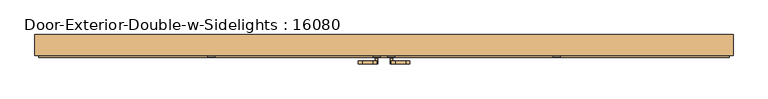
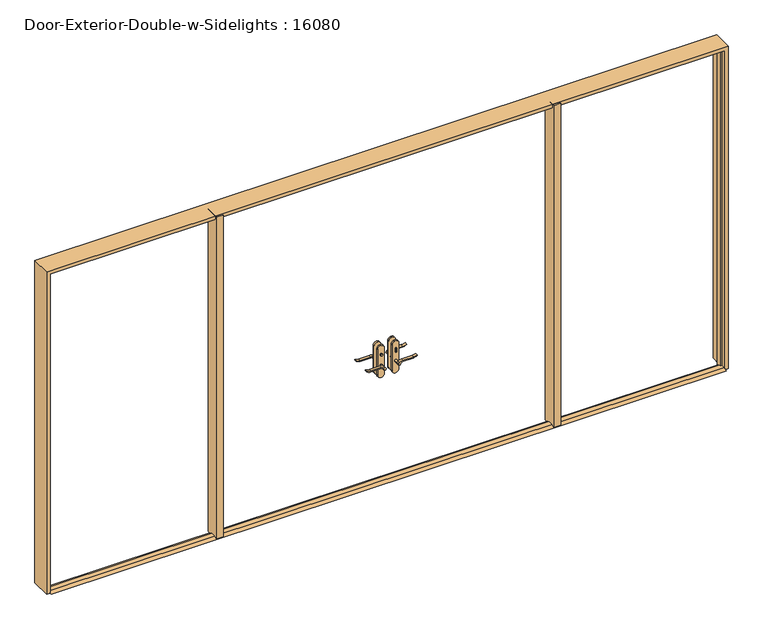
"""IFC4 building model written with IfcOpenShell, lengths in millimetres: door geometry, Door-Exterior-Double-w-Sidelights : 16080."""

from ifc_helpers import new_model, si_unit, point, frame, frame_2d, origin, origin_with_axes, place, context, project, spatial, polyline, circle_curve, trimmed, segment, composite_curve, outline, extrude, faceted_brep, source, transform, mapped, element, save


def door_exterior_double_w_sidelights_16080_06d0ee3c(model_context):
    return source(origin(), model_context, "Body", "SolidModel", [
        extrude(outline(polyline([(-19.05, 12.7), (6.35, 0.0), (-79.375, 0.0), (-53.975, 12.7), (-19.05, 12.7)])), frame((-2438.4, 0.0, 0.0), z_axis=(1.0, 0.0, 0.0), x_axis=(0.0, 1.0, 0.0)), (0.0, 0.0, 1.0), 4876.8),
        extrude(outline(polyline([(-47.4019111, -8.575), (-47.4019111, -18.575), (-57.4019111, -18.575), (-57.4019111, -8.575), (-47.4019111, -8.575)])), frame((0.0, 0.0, 981.9), z_axis=(0.0, 0.0, 1.0), x_axis=(1.0, 0.0, 0.0)), (0.0, 0.0, 1.0), 30.0),
        extrude(outline(composite_curve([segment(trimmed(circle_curve(frame_2d((996.9, -52.4019111)), 8.0), [point((996.9, -60.4019111))], [point((996.9, -44.4019111))], False, "CARTESIAN"), True, "CONTINUOUS"), segment(trimmed(circle_curve(frame_2d((996.9, -52.4019111)), 8.0), [point((996.9, -44.4019111))], [point((996.9, -60.4019111))], False, "CARTESIAN"), True, "CONTINUOUS")], self_intersect=False)), frame((0.0, -83.5, 0.0), z_axis=(0.0, 1.0, 0.0), x_axis=(0.0, 0.0, 1.0)), (0.0, 0.0, 1.0), 10.0),
        extrude(outline(composite_curve([segment(trimmed(circle_curve(frame_2d((897.1555521, -76.0694241)), 37.2832219), [point((919.0523287, -45.8937749))], [point((934.4, -77.7693445))], False, "CARTESIAN"), True, "CONTINUOUS"), segment(polyline([(934.4, -77.7693445), (934.4, -154.045502)]), True, "CONTINUOUS"), segment(trimmed(circle_curve(frame_2d((1017.6850638, -153.9791202)), 83.2850902), [point((934.4, -154.045502))], [point((939.4, -182.4019111))], True, "CARTESIAN"), True, "CONTINUOUS"), segment(polyline([(939.4, -182.4019111), (936.6135558, -182.4019111)]), True, "CONTINUOUS"), segment(trimmed(circle_curve(frame_2d((986.6709207, -150.4622499)), 59.3791355), [point((936.6135558, -182.4019111))], [point((927.4, -154.045502))], False, "CARTESIAN"), True, "CONTINUOUS"), segment(polyline([(927.4, -154.045502), (927.4, -77.7881013)]), True, "CONTINUOUS"), segment(trimmed(circle_curve(frame_2d((909.2738613, -77.7881013)), 18.1261387), [point((927.4, -77.7881013))], [point((914.4, -60.4019111))], True, "CARTESIAN"), True, "CONTINUOUS"), segment(trimmed(circle_curve(frame_2d((914.4, -52.4019111)), 8.0), [point((914.4, -60.4019111))], [point((919.0523287, -45.8937749))], False, "CARTESIAN"), True, "CONTINUOUS")], self_intersect=False)), frame((0.0, 11.425, 0.0), z_axis=(0.0, 1.0, 0.0), x_axis=(0.0, 0.0, 1.0)), (0.0, 0.0, 1.0), 20.0),
        extrude(outline(composite_curve([segment(trimmed(circle_curve(frame_2d((914.4, -52.4019111)), 8.0), [point((914.3999903, -60.4019111))], [point((919.0523287, -45.8937749))], False, "CARTESIAN"), True, "CONTINUOUS"), segment(trimmed(circle_curve(frame_2d((897.1555521, -76.0694241)), 37.2832219), [point((919.0523287, -45.8937749))], [point((934.4, -77.7693445))], False, "CARTESIAN"), True, "CONTINUOUS"), segment(polyline([(934.4, -77.7693445), (934.4, -154.045502)]), True, "CONTINUOUS"), segment(trimmed(circle_curve(frame_2d((1017.6850638, -153.9791202)), 83.2850902), [point((934.4, -154.045502))], [point((939.4, -182.4019111))], True, "CARTESIAN"), True, "CONTINUOUS"), segment(polyline([(939.4, -182.4019111), (936.6135558, -182.4019111)]), True, "CONTINUOUS"), segment(trimmed(circle_curve(frame_2d((986.6709207, -150.4622499)), 59.3791355), [point((936.6135558, -182.4019111))], [point((927.4, -154.045502))], False, "CARTESIAN"), True, "CONTINUOUS"), segment(polyline([(927.4, -154.045502), (927.4, -77.788099)]), True, "CONTINUOUS"), segment(trimmed(circle_curve(frame_2d((909.2738682, -77.788099)), 18.1261318), [point((927.4, -77.788099))], [point((914.3999903, -60.4019111))], True, "CARTESIAN"), True, "CONTINUOUS")], self_intersect=False)), frame((0.0, -123.5, 0.0), z_axis=(0.0, 1.0, 0.0), x_axis=(0.0, 0.0, 1.0)), (0.0, 0.0, 1.0), 20.0),
        extrude(outline(composite_curve([segment(trimmed(circle_curve(frame_2d((914.4, -52.4019111)), 8.0), [point((914.4, -60.4019111))], [point((914.4, -44.4019111))], False, "CARTESIAN"), True, "CONTINUOUS"), segment(trimmed(circle_curve(frame_2d((914.4, -52.4019111)), 8.0), [point((914.4, -44.4019111))], [point((914.4, -60.4019111))], False, "CARTESIAN"), True, "CONTINUOUS")], self_intersect=False)), frame((0.0, -18.575, 0.0), z_axis=(0.0, 1.0, 0.0), x_axis=(0.0, 0.0, 1.0)), (0.0, 0.0, 1.0), 30.0),
        extrude(outline(composite_curve([segment(trimmed(circle_curve(frame_2d((914.4, -52.4019111)), 8.0), [point((914.4, -60.4019111))], [point((914.4, -44.4019111))], False, "CARTESIAN"), True, "CONTINUOUS"), segment(trimmed(circle_curve(frame_2d((914.4, -52.4019111)), 8.0), [point((914.4, -44.4019111))], [point((914.4, -60.4019111))], False, "CARTESIAN"), True, "CONTINUOUS")], self_intersect=False)), frame((0.0, -103.5, 0.0), z_axis=(0.0, 1.0, 0.0), x_axis=(0.0, 0.0, 1.0)), (0.0, 0.0, 1.0), 30.0),
        extrude(outline(composite_curve([segment(polyline([(844.4, -27.4019111), (1039.4, -27.4019111)]), True, "CONTINUOUS"), segment(trimmed(circle_curve(frame_2d((1039.4, -52.4019111)), 25.0), [point((1039.4, -27.4019111))], [point((1039.4, -77.4019111))], False, "CARTESIAN"), True, "CONTINUOUS"), segment(polyline([(1039.4, -77.4019111), (844.4, -77.4019111)]), True, "CONTINUOUS"), segment(trimmed(circle_curve(frame_2d((844.4, -52.4019111)), 25.0), [point((844.4, -77.4019111))], [point((844.4, -27.4019111))], False, "CARTESIAN"), True, "CONTINUOUS")], self_intersect=False)), frame((0.0, -28.575, 0.0), z_axis=(0.0, 1.0, 0.0), x_axis=(0.0, 0.0, 1.0)), (0.0, 0.0, 1.0), 10.0),
        extrude(outline(composite_curve([segment(polyline([(844.4, -27.4019111), (1039.4, -27.4019111)]), True, "CONTINUOUS"), segment(trimmed(circle_curve(frame_2d((1039.4, -52.4019111)), 25.0), [point((1039.4, -27.4019111))], [point((1039.4, -77.4019111))], False, "CARTESIAN"), True, "CONTINUOUS"), segment(polyline([(1039.4, -77.4019111), (844.4, -77.4019111)]), True, "CONTINUOUS"), segment(trimmed(circle_curve(frame_2d((844.4, -52.4019111)), 25.0), [point((844.4, -77.4019111))], [point((844.4, -27.4019111))], False, "CARTESIAN"), True, "CONTINUOUS")], self_intersect=False)), frame((0.0, -73.5, 0.0), z_axis=(0.0, 1.0, 0.0), x_axis=(0.0, 0.0, 1.0)), (0.0, 0.0, 1.0), 10.0),
        extrude(outline(polyline([(47.3875, -83.5), (47.3875, -73.5), (57.3875, -73.5), (57.3875, -83.5), (47.3875, -83.5)])), frame((0.0, 0.0, 981.9), z_axis=(0.0, 0.0, 1.0), x_axis=(1.0, 0.0, 0.0)), (0.0, 0.0, 1.0), 30.0),
        extrude(outline(composite_curve([segment(trimmed(circle_curve(frame_2d((996.9, 52.3875)), 8.0), [point((996.9, 60.3875))], [point((996.9, 44.3875))], False, "CARTESIAN"), True, "CONTINUOUS"), segment(trimmed(circle_curve(frame_2d((996.9, 52.3875)), 8.0), [point((996.9, 44.3875))], [point((996.9, 60.3875))], False, "CARTESIAN"), True, "CONTINUOUS")], self_intersect=False)), frame((0.0, -18.575, 0.0), z_axis=(0.0, 1.0, 0.0), x_axis=(0.0, 0.0, 1.0)), (0.0, 0.0, 1.0), 10.0),
        extrude(outline(composite_curve([segment(trimmed(circle_curve(frame_2d((914.4, 52.3875)), 8.0), [point((919.0523287, 45.8793637))], [point((914.4, 60.3875))], False, "CARTESIAN"), True, "CONTINUOUS"), segment(trimmed(circle_curve(frame_2d((909.2738613, 77.7736901)), 18.1261387), [point((914.4, 60.3875))], [point((927.4, 77.7736901))], True, "CARTESIAN"), True, "CONTINUOUS"), segment(polyline([(927.4, 77.7736901), (927.4, 154.0310909)]), True, "CONTINUOUS"), segment(trimmed(circle_curve(frame_2d((986.6709207, 150.4478388)), 59.3791355), [point((927.4, 154.0310909))], [point((936.6135558, 182.3875))], False, "CARTESIAN"), True, "CONTINUOUS"), segment(polyline([(936.6135558, 182.3875), (939.4, 182.3875)]), True, "CONTINUOUS"), segment(trimmed(circle_curve(frame_2d((1017.6850638, 153.9647091)), 83.2850902), [point((939.4, 182.3875))], [point((934.4, 154.0310909))], True, "CARTESIAN"), True, "CONTINUOUS"), segment(polyline([(934.4, 154.0310909), (934.4, 77.7549333)]), True, "CONTINUOUS"), segment(trimmed(circle_curve(frame_2d((897.1555521, 76.0550129)), 37.2832219), [point((934.4, 77.7549333))], [point((919.0523287, 45.8793637))], False, "CARTESIAN"), True, "CONTINUOUS")], self_intersect=False)), frame((0.0, -123.5, 0.0), z_axis=(0.0, 1.0, 0.0), x_axis=(0.0, 0.0, 1.0)), (0.0, 0.0, 1.0), 20.0),
        extrude(outline(composite_curve([segment(trimmed(circle_curve(frame_2d((909.2738682, 77.7736878)), 18.1261318), [point((914.3999903, 60.3875))], [point((927.4, 77.7736878))], True, "CARTESIAN"), True, "CONTINUOUS"), segment(polyline([(927.4, 77.7736878), (927.4, 154.0310909)]), True, "CONTINUOUS"), segment(trimmed(circle_curve(frame_2d((986.6709207, 150.4478388)), 59.3791355), [point((927.4, 154.0310909))], [point((936.6135558, 182.3875))], False, "CARTESIAN"), True, "CONTINUOUS"), segment(polyline([(936.6135558, 182.3875), (939.4, 182.3875)]), True, "CONTINUOUS"), segment(trimmed(circle_curve(frame_2d((1017.6850638, 153.9647091)), 83.2850902), [point((939.4, 182.3875))], [point((934.4, 154.0310909))], True, "CARTESIAN"), True, "CONTINUOUS"), segment(polyline([(934.4, 154.0310909), (934.4, 77.7549333)]), True, "CONTINUOUS"), segment(trimmed(circle_curve(frame_2d((897.1555521, 76.0550129)), 37.2832219), [point((934.4, 77.7549333))], [point((919.0523287, 45.8793637))], False, "CARTESIAN"), True, "CONTINUOUS"), segment(trimmed(circle_curve(frame_2d((914.4, 52.3875)), 8.0), [point((919.0523287, 45.8793637))], [point((914.3999903, 60.3875))], False, "CARTESIAN"), True, "CONTINUOUS")], self_intersect=False)), frame((0.0, 11.425, 0.0), z_axis=(0.0, 1.0, 0.0), x_axis=(0.0, 0.0, 1.0)), (0.0, 0.0, 1.0), 20.0),
        extrude(outline(composite_curve([segment(trimmed(circle_curve(frame_2d((914.4, 52.3875)), 8.0), [point((914.4, 60.3875))], [point((914.4, 44.3875))], False, "CARTESIAN"), True, "CONTINUOUS"), segment(trimmed(circle_curve(frame_2d((914.4, 52.3875)), 8.0), [point((914.4, 44.3875))], [point((914.4, 60.3875))], False, "CARTESIAN"), True, "CONTINUOUS")], self_intersect=False)), frame((0.0, -103.5, 0.0), z_axis=(0.0, 1.0, 0.0), x_axis=(0.0, 0.0, 1.0)), (0.0, 0.0, 1.0), 30.0),
        extrude(outline(composite_curve([segment(trimmed(circle_curve(frame_2d((914.4, 52.3875)), 8.0), [point((914.4, 60.3875))], [point((914.4, 44.3875))], False, "CARTESIAN"), True, "CONTINUOUS"), segment(trimmed(circle_curve(frame_2d((914.4, 52.3875)), 8.0), [point((914.4, 44.3875))], [point((914.4, 60.3875))], False, "CARTESIAN"), True, "CONTINUOUS")], self_intersect=False)), frame((0.0, -18.575, 0.0), z_axis=(0.0, 1.0, 0.0), x_axis=(0.0, 0.0, 1.0)), (0.0, 0.0, 1.0), 30.0),
        extrude(outline(composite_curve([segment(trimmed(circle_curve(frame_2d((844.4, 52.3875)), 25.0), [point((844.4, 27.3875))], [point((844.4, 77.3875))], False, "CARTESIAN"), True, "CONTINUOUS"), segment(polyline([(844.4, 77.3875), (1039.4, 77.3875)]), True, "CONTINUOUS"), segment(trimmed(circle_curve(frame_2d((1039.4, 52.3875)), 25.0), [point((1039.4, 77.3875))], [point((1039.4, 27.3875))], False, "CARTESIAN"), True, "CONTINUOUS"), segment(polyline([(1039.4, 27.3875), (844.4, 27.3875)]), True, "CONTINUOUS")], self_intersect=False)), frame((0.0, -73.5, 0.0), z_axis=(0.0, 1.0, 0.0), x_axis=(0.0, 0.0, 1.0)), (0.0, 0.0, 1.0), 10.0),
        extrude(outline(composite_curve([segment(trimmed(circle_curve(frame_2d((844.4, 52.3875)), 25.0), [point((844.4, 27.3875))], [point((844.4, 77.3875))], False, "CARTESIAN"), True, "CONTINUOUS"), segment(polyline([(844.4, 77.3875), (1039.4, 77.3875)]), True, "CONTINUOUS"), segment(trimmed(circle_curve(frame_2d((1039.4, 52.3875)), 25.0), [point((1039.4, 77.3875))], [point((1039.4, 27.3875))], False, "CARTESIAN"), True, "CONTINUOUS"), segment(polyline([(1039.4, 27.3875), (844.4, 27.3875)]), True, "CONTINUOUS")], self_intersect=False)), frame((0.0, -28.575, 0.0), z_axis=(0.0, 1.0, 0.0), x_axis=(0.0, 0.0, 1.0)), (0.0, 0.0, 1.0), 10.0),
        faceted_brep([(2463.8, -63.5, 0.0), (2438.4, -63.5, 0.0), (2438.4, -28.575, 0.0), (2425.7, -28.575, 0.0), (2425.7, 6.35, 0.0), (2438.4, 6.35, 0.0), (2438.4, 82.55, 0.0), (2463.8, 82.55, 0.0), (2463.8, 82.55, 2463.8), (2463.8, -63.5, 2463.8), (2438.4, 82.55, 2438.4), (-2438.4, 82.55, 2438.4), (-2438.4, 82.55, 0.0), (-2463.8, 82.55, 0.0), (-2463.8, 82.55, 2463.8), (2438.4, 6.35, 2438.4), (2425.7, 6.35, 2425.7), (-2425.7, 6.35, 2425.7), (-2425.7, 6.35, 0.0), (-2438.4, 6.35, 0.0), (-2438.4, 6.35, 2438.4), (2425.7, -28.575, 2425.7), (2438.4, -28.575, 2438.4), (-2438.4, -28.575, 2438.4), (-2438.4, -28.575, 0.0), (-2425.7, -28.575, 0.0), (-2425.7, -28.575, 2425.7), (2438.4, -63.5, 2438.4), (-2463.8, -63.5, 2463.8), (-2463.8, -63.5, 0.0), (-2438.4, -63.5, 0.0), (-2438.4, -63.5, 2438.4)], [[[0, 1, 2, 3, 4, 5, 6, 7]], [[7, 8, 9, 0]], [[6, 10, 11, 12, 13, 14, 8, 7]], [[5, 15, 10, 6]], [[4, 16, 17, 18, 19, 20, 15, 5]], [[3, 21, 16, 4]], [[2, 22, 23, 24, 25, 26, 21, 3]], [[1, 27, 22, 2]], [[0, 9, 28, 29, 30, 31, 27, 1]], [[8, 14, 28, 9]], [[15, 20, 11, 10]], [[21, 26, 17, 16]], [[27, 31, 23, 22]], [[29, 13, 12, 19, 18, 25, 24, 30]], [[14, 13, 29, 28]], [[20, 19, 12, 11]], [[26, 25, 18, 17]], [[31, 30, 24, 23]]]),
        extrude(outline(polyline([(-1193.8, 25.4), (-1193.8, -76.2), (-1244.6, -76.2), (-1244.6, 25.4), (-1193.8, 25.4)])), origin_with_axes(), (0.0, 0.0, 1.0), 2463.8),
        extrude(outline(polyline([(1244.6, 25.4), (1244.6, -76.2), (1193.8, -76.2), (1193.8, 25.4), (1244.6, 25.4)])), origin_with_axes(), (0.0, 0.0, 1.0), 2463.8),
    ])


if __name__ == "__main__":
    model = new_model("IFC4")
    model_context = context("Model", 3, world=origin())
    ifc_project = project(units=[si_unit("LENGTHUNIT", "METRE", prefix="MILLI")], contexts=[model_context])
    site = spatial("IfcSite", under=ifc_project)
    building = spatial("IfcBuilding", under=site)
    placement = place(None, origin())
    door_exterior_double_w_sidelights_16080_shape = door_exterior_double_w_sidelights_16080_06d0ee3c(model_context)
    element("IfcDoor", 1, ObjectType="Door-Exterior-Double-w-Sidelights : 16080", at=placement, inside=building, context=model_context, shape_type="MappedRepresentation", body=[
        mapped(door_exterior_double_w_sidelights_16080_shape, transform((0.0, 0.0, 0.0), x_axis=(1.0, 0.0, 0.0), y_axis=(0.0, 1.0, 0.0), z_axis=(0.0, 0.0, 1.0))),
    ])
    save(model, "model.ifc")
